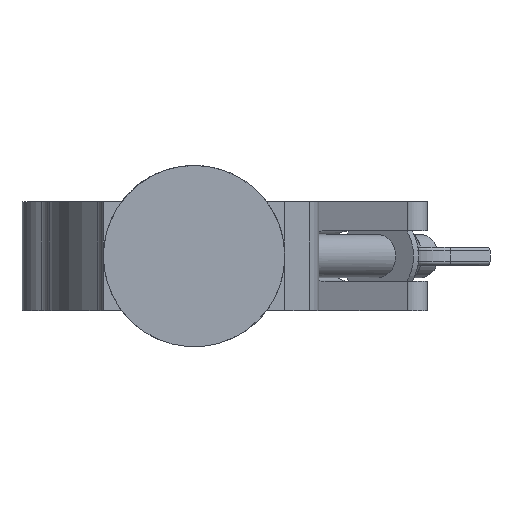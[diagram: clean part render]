
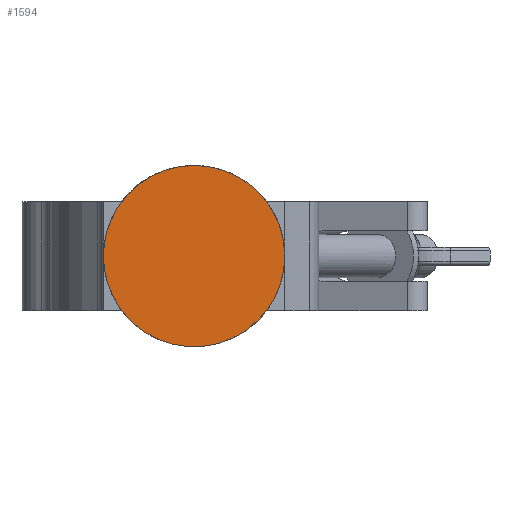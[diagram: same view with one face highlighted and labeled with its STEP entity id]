
A CAD part, front view. The second image highlights one B-rep face of the part: STEP entity #1594.
In plain terms, the highlighted planar face has unit normal (0, -1, 0).
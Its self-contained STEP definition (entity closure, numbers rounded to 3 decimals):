
#122=PLANE('',#1773);
#199=FACE_OUTER_BOUND('',#284,.T.);
#284=EDGE_LOOP('',(#1375,#1376));
#355=CIRCLE('',#1774,25.);
#356=CIRCLE('',#1775,25.);
#712=VERTEX_POINT('',#2856);
#713=VERTEX_POINT('',#2857);
#936=EDGE_CURVE('',#712,#713,#355,.T.);
#937=EDGE_CURVE('',#713,#712,#356,.T.);
#1375=ORIENTED_EDGE('',*,*,#936,.T.);
#1376=ORIENTED_EDGE('',*,*,#937,.T.);
#1594=ADVANCED_FACE('',(#199),#122,.T.);
#1773=AXIS2_PLACEMENT_3D('',#2855,#2196,#2197);
#1774=AXIS2_PLACEMENT_3D('',#2858,#2198,#2199);
#1775=AXIS2_PLACEMENT_3D('',#2859,#2200,#2201);
#2196=DIRECTION('center_axis',(0.,-1.,0.));
#2197=DIRECTION('ref_axis',(0.707,0.,0.707));
#2198=DIRECTION('center_axis',(0.,-1.,0.));
#2199=DIRECTION('ref_axis',(1.,0.,0.));
#2200=DIRECTION('center_axis',(0.,-1.,0.));
#2201=DIRECTION('ref_axis',(1.,0.,0.));
#2855=CARTESIAN_POINT('Origin',(-17.678,-182.,17.678));
#2856=CARTESIAN_POINT('',(25.,-182.,0.));
#2857=CARTESIAN_POINT('',(17.678,-182.,-17.678));
#2858=CARTESIAN_POINT('Origin',(0.,-182.,0.));
#2859=CARTESIAN_POINT('Origin',(0.,-182.,0.));
